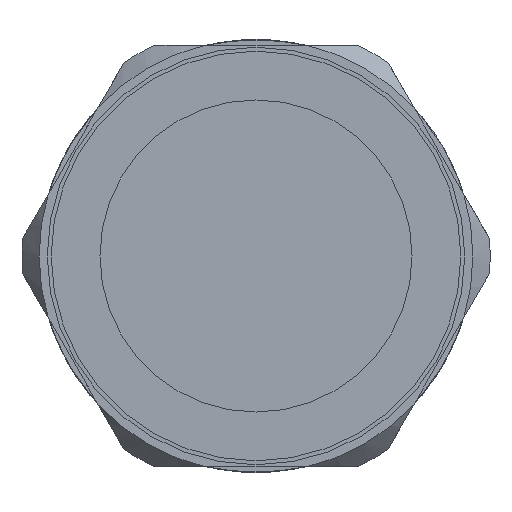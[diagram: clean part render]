
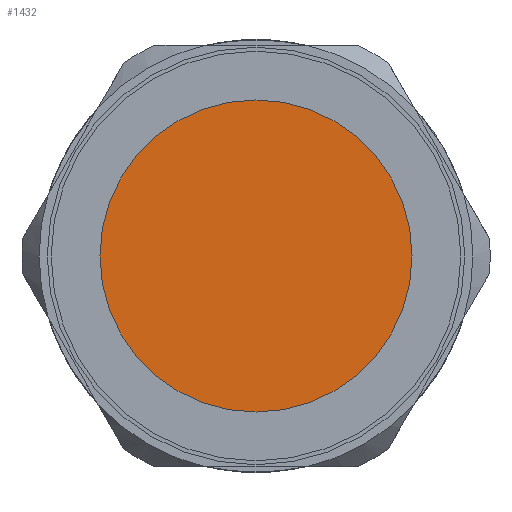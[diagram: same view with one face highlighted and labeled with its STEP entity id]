
A CAD part, left-side view. The second image highlights one B-rep face of the part: STEP entity #1432.
In plain terms, the highlighted planar face has unit normal (-1, 0, 0).
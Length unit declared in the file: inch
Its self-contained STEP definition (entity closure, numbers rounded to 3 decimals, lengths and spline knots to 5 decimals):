
#61=PLANE('',#1582);
#148=FACE_OUTER_BOUND('',#227,.T.);
#227=EDGE_LOOP('',(#1080,#1081));
#460=CIRCLE('',#1580,0.31496);
#461=CIRCLE('',#1581,0.31496);
#580=VERTEX_POINT('',#16318);
#581=VERTEX_POINT('',#16320);
#760=EDGE_CURVE('',#580,#581,#460,.T.);
#761=EDGE_CURVE('',#581,#580,#461,.T.);
#1080=ORIENTED_EDGE('',*,*,#761,.F.);
#1081=ORIENTED_EDGE('',*,*,#760,.F.);
#1432=ADVANCED_FACE('',(#148),#61,.T.);
#1580=AXIS2_PLACEMENT_3D('',#16321,#1880,#1881);
#1581=AXIS2_PLACEMENT_3D('',#16322,#1882,#1883);
#1582=AXIS2_PLACEMENT_3D('',#16323,#1884,#1885);
#1880=DIRECTION('center_axis',(1.,0.,0.));
#1881=DIRECTION('ref_axis',(0.,0.866,-0.5));
#1882=DIRECTION('center_axis',(1.,0.,0.));
#1883=DIRECTION('ref_axis',(0.,0.866,-0.5));
#1884=DIRECTION('center_axis',(-1.,0.,0.));
#1885=DIRECTION('ref_axis',(0.,0.866,-0.5));
#16318=CARTESIAN_POINT('',(-2.0098,-0.17146,-0.04732));
#16320=CARTESIAN_POINT('',(-2.0098,0.37407,-0.36228));
#16321=CARTESIAN_POINT('Origin',(-2.0098,0.1013,-0.2048));
#16322=CARTESIAN_POINT('Origin',(-2.0098,0.1013,-0.2048));
#16323=CARTESIAN_POINT('Origin',(-2.0098,0.1013,-0.2048));
